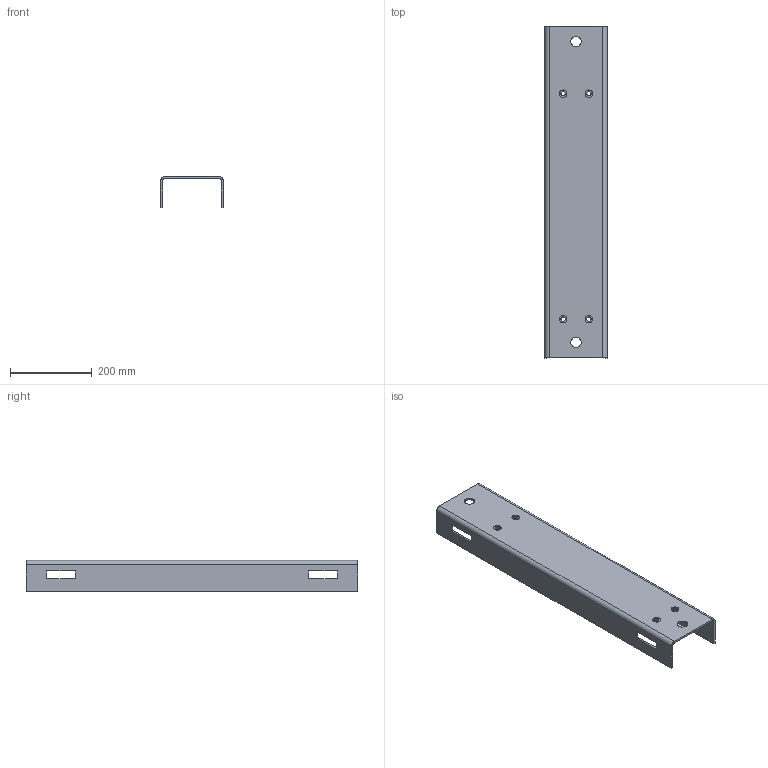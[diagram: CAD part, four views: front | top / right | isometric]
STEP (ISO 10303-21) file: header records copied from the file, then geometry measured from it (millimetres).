
FILE_DESCRIPTION (( 'STEP AP214' ), '1' );
FILE_NAME ('epmc6.STEP', '2007-06-27T12:36:27', ( '' ), ( '' ), 'SwSTEP 2.0', 'SolidWorks 2007', '' );
FILE_SCHEMA (( 'AUTOMOTIVE_DESIGN' ));
Length unit declared in the file: inch
Products named in the file (1): epmc6
Bounding box: 152.4 x 812.8 x 76.2 mm (x, y, z)
Volume: 1086561.5 mm3; surface area: 470913.3 mm2
Topology: 1 solids, 1 shells, 62 faces, 152 edges, 96 vertices
Faces by surface type: plane 38, cylinder 24
Entity records: 1883 total; most frequent: DIRECTION 326, CARTESIAN_POINT 311, ORIENTED_EDGE 304, EDGE_CURVE 152, AXIS2_PLACEMENT_3D 111, VECTOR 104, LINE 104, VERTEX_POINT 96
